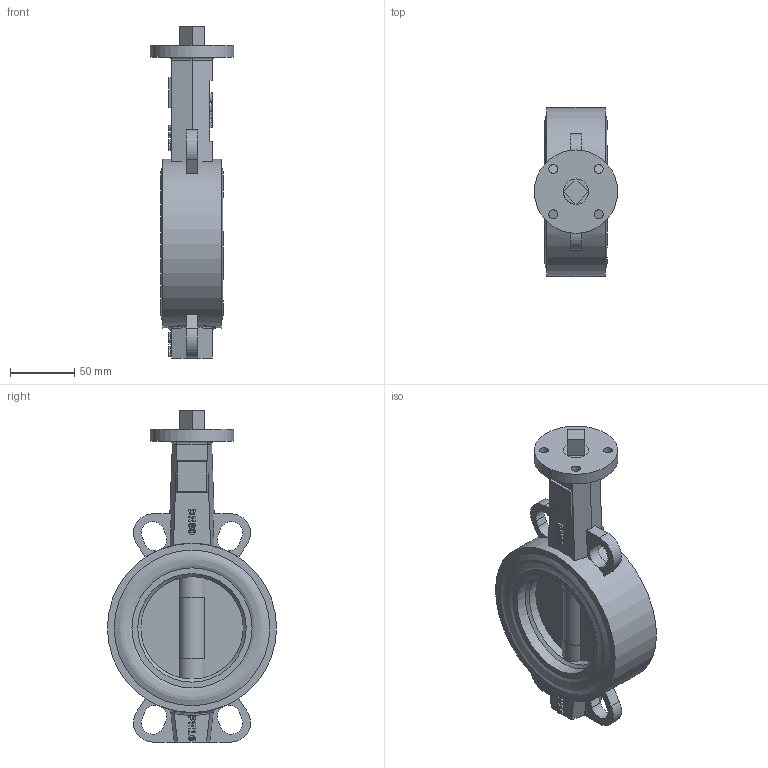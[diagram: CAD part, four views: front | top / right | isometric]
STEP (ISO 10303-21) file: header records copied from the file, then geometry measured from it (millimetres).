
FILE_DESCRIPTION(('STEP AP242'), '1');
FILE_NAME('Ïîâîðîòíûé çàòâîð ïîä ýëåêòðîïðèâîä', '', ('UNSPECIFIED'), ('UNSPECIFIED'), 'C3D Converter', 'C3D Toolkit', '');
FILE_SCHEMA(('AP242_MANAGED_MODEL_BASED_3D_ENGINEERING_MIM_LF { 1 0 10303 442 1 1 4 }'));
Length unit declared in the file: millimetre
Products named in the file (6): П
Assembly tree (6 placements, depth 2):
  (unnamed)
    (unnamed)
    П  x2
    (unnamed)
    (unnamed)
    (unnamed)
Bounding box: 65 x 132 x 259 mm (x, y, z)
Volume: 596873.7 mm3; surface area: 168354 mm2
Topology: 6 solids, 6 shells, 411 faces, 1092 edges, 718 vertices
Faces by surface type: plane 189, extrusion 153, cylinder 57, bspline 4, torus 4, cone 4
Full cylindrical faces by diameter (mm): 7 x4, 8.223 x1, 14 x6, 19.799 x5, 21.66 x4, 65 x1, 80 x1, 84.56 x2, 93.68 x2, 107.52 x4, 121.36 x4, 132 x1
Entity records: 17328 total; most frequent: CARTESIAN_POINT 5604, ORIENTED_EDGE 2084, DIRECTION 1484, EDGE_CURVE 1042, VERTEX_POINT 713, VECTOR 704, LINE 551, EDGE_LOOP 505
